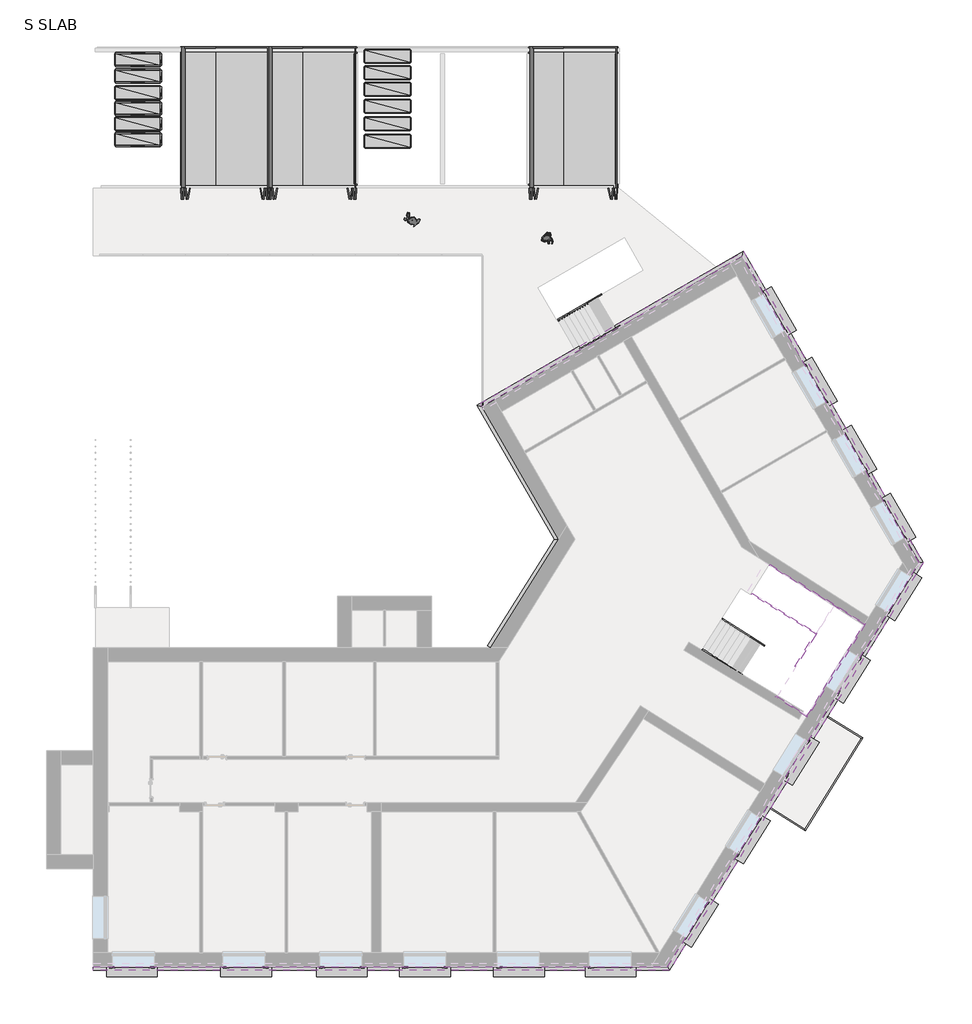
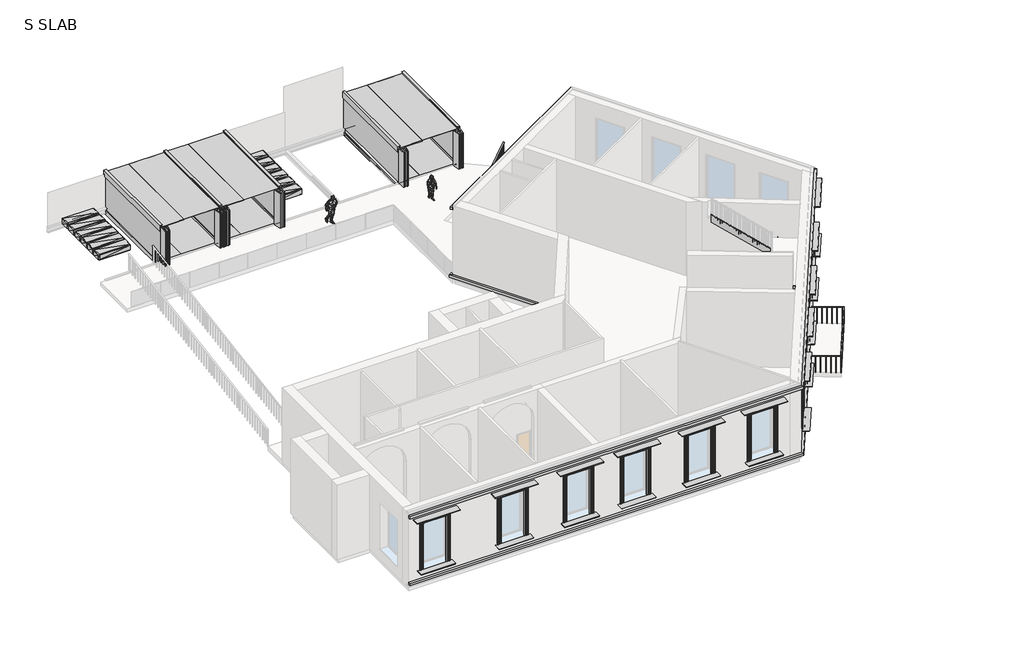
# One storey, part 4 of 4: 20 proxies, 14 geographic elements, 10 members, 2 railings.
"""IFC4 building model written with IfcOpenShell, lengths in millimetres."""

from ifc_helpers import new_model, si_unit, frame, origin, place, context, project, spatial, polyline, outline, extrude, faceted_brep, transform, mapped, element, save
from components import type_1_4bf1130a, metal_blocks12_metal_blocks12_015d9ee2, geographic_element_6e2c9092, geographic_element_3de9c337, geographic_element_529ebcd5

model = new_model("IFC4")

# Units and contexts
model_context = context("Model", 3, world=origin())
ifc_project = project(units=[si_unit("LENGTHUNIT", "METRE", prefix="MILLI")], contexts=[model_context])

# Site, building, storey
site = spatial("IfcSite", under=ifc_project)
building = spatial("IfcBuilding", under=site)
storey = spatial("IfcBuildingStorey", under=building, Name="S SLAB", Elevation=6300.0)

# Proxies
placement = place(None, origin())
element("IfcBuildingElementProxy", 1, Name="Cornice", ObjectType="Cornice", at=placement, inside=storey, context=model_context, shape_type="SweptSolid", body=[
    extrude(outline(polyline([(-13431.6874983, -4162.3711746), (-13431.6874983, -4009.9711746), (11034.8726536, -4009.9711746), (11119.4852108, -4162.3711746), (-13431.6874983, -4162.3711746)])), frame((0.0, 0.0, 6500.0), z_axis=(0.0, 0.0, 1.0), x_axis=(1.0, 0.0, 0.0)), (0.0, 0.0, 1.0), 152.4),
    extrude(outline(polyline([(21757.1517651, 13201.4322483), (21934.8489483, 13198.4516986), (11119.4852108, -4162.3711746), (11034.8726536, -4009.9711746), (21757.1517651, 13201.4322483)])), frame((0.0, 0.0, 6500.0), z_axis=(0.0, 0.0, 1.0), x_axis=(1.0, 0.0, 0.0)), (0.0, 0.0, 1.0), 152.4),
    extrude(outline(polyline([(14217.1617815, 26261.0779885), (14272.9440531, 26469.26026), (21934.8489483, 13198.4516986), (21757.1517651, 13201.4322483), (14217.1617815, 26261.0779885)])), frame((0.0, 0.0, 6500.0), z_axis=(0.0, 0.0, 1.0), x_axis=(1.0, 0.0, 0.0)), (0.0, 0.0, 1.0), 152.4),
    extrude(outline(polyline([(3132.0366131, 19861.0779885), (2923.8543416, 19916.86026), (14272.9440531, 26469.26026), (14217.1617815, 26261.0779885), (3132.0366131, 19861.0779885)])), frame((0.0, 0.0, 6500.0), z_axis=(0.0, 0.0, 1.0), x_axis=(1.0, 0.0, 0.0)), (0.0, 0.0, 1.0), 152.4),
    extrude(outline(polyline([(6391.9075202, 14214.8159512), (6214.1396695, 14217.9189006), (2923.8543416, 19916.86026), (3132.0366131, 19861.0779885), (6391.9075202, 14214.8159512)])), frame((0.0, 0.0, 6500.0), z_axis=(0.0, 0.0, 1.0), x_axis=(1.0, 0.0, 0.0)), (0.0, 0.0, 1.0), 152.4),
    extrude(outline(polyline([(3502.0197862, 9590.0288254), (3372.7772564, 9670.7885213), (6214.1396695, 14217.9189006), (6391.9075202, 14214.8159512), (3502.0197862, 9590.0288254)])), frame((0.0, 0.0, 6500.0), z_axis=(0.0, 0.0, 1.0), x_axis=(1.0, 0.0, 0.0)), (0.0, 0.0, 1.0), 152.4),
])
element("IfcBuildingElementProxy", 2, Name="Cornice", ObjectType="Cornice", at=placement, inside=storey, context=model_context, shape_type="SweptSolid", body=[
    extrude(outline(polyline([(-13431.6874983, -4162.3711746), (-13431.6874983, -4009.9711746), (11034.8726536, -4009.9711746), (11119.4852108, -4162.3711746), (-13431.6874983, -4162.3711746)])), frame((0.0, 0.0, 10900.0), z_axis=(0.0, 0.0, 1.0), x_axis=(1.0, 0.0, 0.0)), (0.0, 0.0, 1.0), 152.4),
    extrude(outline(polyline([(21757.1517651, 13201.4322483), (21934.8489483, 13198.4516986), (11119.4852108, -4162.3711746), (11034.8726536, -4009.9711746), (21757.1517651, 13201.4322483)])), frame((0.0, 0.0, 10900.0), z_axis=(0.0, 0.0, 1.0), x_axis=(1.0, 0.0, 0.0)), (0.0, 0.0, 1.0), 152.4),
    extrude(outline(polyline([(14217.1617815, 26261.0779885), (14272.9440531, 26469.26026), (21934.8489483, 13198.4516986), (21757.1517651, 13201.4322483), (14217.1617815, 26261.0779885)])), frame((0.0, 0.0, 10900.0), z_axis=(0.0, 0.0, 1.0), x_axis=(1.0, 0.0, 0.0)), (0.0, 0.0, 1.0), 152.4),
    extrude(outline(polyline([(3132.0366131, 19861.0779885), (3055.8366131, 19993.06026), (14272.9440531, 26469.26026), (14217.1617815, 26261.0779885), (3132.0366131, 19861.0779885)])), frame((0.0, 0.0, 10900.0), z_axis=(0.0, 0.0, 1.0), x_axis=(1.0, 0.0, 0.0)), (0.0, 0.0, 1.0), 152.4),
])
type_1_shape = type_1_4bf1130a(model_context)
element("IfcBuildingElementProxy", 3, Name="Family1.rfa122231 : Type 1", ObjectType="Family1.rfa122231 : Type 1", at=placement, inside=storey, context=model_context, shape_type="MappedRepresentation", body=[
    mapped(type_1_shape, transform((-11667.3092766, -3709.9711746, 6300.0), x_axis=(-1.0, 0.0, 0.0), y_axis=(0.0, -1.0, 0.0), z_axis=(0.0, 0.0, 1.0))),
])
element("IfcBuildingElementProxy", 4, Name="Family1.rfa122231 : Type 1", ObjectType="Family1.rfa122231 : Type 1", at=placement, inside=storey, context=model_context, shape_type="MappedRepresentation", body=[
    mapped(type_1_shape, transform((-6801.9484639, -3709.9711746, 6300.0), x_axis=(-1.0, 0.0, 0.0), y_axis=(0.0, -1.0, 0.0), z_axis=(0.0, 0.0, 1.0))),
])
element("IfcBuildingElementProxy", 5, Name="Family1.rfa122231 : Type 1", ObjectType="Family1.rfa122231 : Type 1", at=placement, inside=storey, context=model_context, shape_type="MappedRepresentation", body=[
    mapped(type_1_shape, transform((-2720.6984639, -3709.9711746, 6300.0), x_axis=(-1.0, 0.0, 0.0), y_axis=(0.0, -1.0, 0.0), z_axis=(0.0, 0.0, 1.0))),
])
element("IfcBuildingElementProxy", 6, Name="Family1.rfa122231 : Type 1", ObjectType="Family1.rfa122231 : Type 1", at=placement, inside=storey, context=model_context, shape_type="MappedRepresentation", body=[
    mapped(type_1_shape, transform((823.990647, -3709.9711746, 6300.0), x_axis=(-1.0, 0.0, 0.0), y_axis=(0.0, -1.0, 0.0), z_axis=(0.0, 0.0, 1.0))),
])
element("IfcBuildingElementProxy", 7, Name="Family1.rfa122231 : Type 1", ObjectType="Family1.rfa122231 : Type 1", at=placement, inside=storey, context=model_context, shape_type="MappedRepresentation", body=[
    mapped(type_1_shape, transform((4834.9297578, -3709.9711746, 6300.0), x_axis=(-1.0, 0.0, 0.0), y_axis=(0.0, -1.0, 0.0), z_axis=(0.0, 0.0, 1.0))),
])
element("IfcBuildingElementProxy", 8, Name="Family1.rfa122231 : Type 1", ObjectType="Family1.rfa122231 : Type 1", at=placement, inside=storey, context=model_context, shape_type="MappedRepresentation", body=[
    mapped(type_1_shape, transform((8744.9297578, -3709.9711746, 6300.0), x_axis=(-1.0, 0.0, 0.0), y_axis=(0.0, -1.0, 0.0), z_axis=(0.0, 0.0, 1.0))),
])
element("IfcBuildingElementProxy", 9, Name="Family1.rfa122231 : Type 1", ObjectType="Family1.rfa122231 : Type 1", at=placement, inside=storey, context=model_context, shape_type="MappedRepresentation", body=[
    mapped(type_1_shape, transform((12080.9568007, -1763.4344335, 6300.0), x_axis=(-0.5287625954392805, -0.8487697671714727, 0.0), y_axis=(0.8487697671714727, -0.5287625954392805, 0.0), z_axis=(0.0, 0.0, 1.0))),
])
element("IfcBuildingElementProxy", 10, Name="Family1.rfa122231 : Type 1", ObjectType="Family1.rfa122231 : Type 1", at=placement, inside=storey, context=model_context, shape_type="MappedRepresentation", body=[
    mapped(type_1_shape, transform((14290.8556765, 1783.8954467, 6300.0), x_axis=(-0.5287625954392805, -0.8487697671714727, 0.0), y_axis=(0.8487697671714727, -0.5287625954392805, 0.0), z_axis=(0.0, 0.0, 1.0))),
])
element("IfcBuildingElementProxy", 11, Name="Family1.rfa122231 : Type 1", ObjectType="Family1.rfa122231 : Type 1", at=placement, inside=storey, context=model_context, shape_type="MappedRepresentation", body=[
    mapped(type_1_shape, transform((20747.0469669, 12147.3743039, 6300.0), x_axis=(-0.5287625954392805, -0.8487697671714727, 0.0), y_axis=(0.8487697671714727, -0.5287625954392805, 0.0), z_axis=(0.0, 0.0, 1.0))),
])
element("IfcBuildingElementProxy", 12, Name="Family1.rfa122231 : Type 1", ObjectType="Family1.rfa122231 : Type 1", at=placement, inside=storey, context=model_context, shape_type="MappedRepresentation", body=[
    mapped(type_1_shape, transform((20386.1041604, 14976.1563593, 6300.0), x_axis=(0.49999999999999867, -0.8660254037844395, 0.0), y_axis=(0.8660254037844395, 0.49999999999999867, 0.0), z_axis=(0.0, 0.0, 1.0))),
])
element("IfcBuildingElementProxy", 13, Name="Family1.rfa122231 : Type 1", ObjectType="Family1.rfa122231 : Type 1", at=placement, inside=storey, context=model_context, shape_type="MappedRepresentation", body=[
    mapped(type_1_shape, transform((18712.3541604, 17875.1763985, 6300.0), x_axis=(0.49999999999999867, -0.8660254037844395, 0.0), y_axis=(0.8660254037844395, 0.49999999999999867, 0.0), z_axis=(0.0, 0.0, 1.0))),
])
element("IfcBuildingElementProxy", 14, Name="Family1.rfa122231 : Type 1", ObjectType="Family1.rfa122231 : Type 1", at=placement, inside=storey, context=model_context, shape_type="MappedRepresentation", body=[
    mapped(type_1_shape, transform((17038.6041604, 20774.1964376, 6300.0), x_axis=(0.49999999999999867, -0.8660254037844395, 0.0), y_axis=(0.8660254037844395, 0.49999999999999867, 0.0), z_axis=(0.0, 0.0, 1.0))),
])
element("IfcBuildingElementProxy", 15, Name="Family1.rfa122231 : Type 1", ObjectType="Family1.rfa122231 : Type 1", at=placement, inside=storey, context=model_context, shape_type="MappedRepresentation", body=[
    mapped(type_1_shape, transform((15301.4150495, 23783.09624, 6300.0), x_axis=(0.49999999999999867, -0.8660254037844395, 0.0), y_axis=(0.8660254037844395, 0.49999999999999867, 0.0), z_axis=(0.0, 0.0, 1.0))),
])
element("IfcBuildingElementProxy", 16, Name="Family1.rfa122231 : Type 1", ObjectType="Family1.rfa122231 : Type 1", at=placement, inside=storey, context=model_context, shape_type="MappedRepresentation", body=[
    mapped(type_1_shape, transform((18557.9698217, 8633.4674678, 6300.0), x_axis=(-0.5287625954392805, -0.8487697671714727, 0.0), y_axis=(0.8487697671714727, -0.5287625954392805, 0.0), z_axis=(0.0, 0.0, 1.0))),
])
element("IfcBuildingElementProxy", 17, Name="Family1.rfa122231 : Type 1", ObjectType="Family1.rfa122231 : Type 1", at=placement, inside=storey, context=model_context, shape_type="MappedRepresentation", body=[
    mapped(type_1_shape, transform((16376.3301548, 5131.4992723, 6300.0), x_axis=(-0.5287625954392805, -0.8487697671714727, 0.0), y_axis=(0.8487697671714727, -0.5287625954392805, 0.0), z_axis=(0.0, 0.0, 1.0))),
])
metal_blocks12_metal_blocks12_shape = metal_blocks12_metal_blocks12_015d9ee2(model_context)
element("IfcBuildingElementProxy", 18, Name="metal blocks12 : metal blocks12", ObjectType="metal blocks12 : metal blocks12", at=placement, inside=storey, context=model_context, shape_type="MappedRepresentation", body=[
    mapped(metal_blocks12_metal_blocks12_shape, transform((8873.2976061, 29190.0288254, 6000.0), x_axis=(0.0, 1.0, 0.0), y_axis=(-1.0, 0.0, 0.0), z_axis=(0.0, 0.0, 1.0))),
])
element("IfcBuildingElementProxy", 19, Name="metal blocks12 : metal blocks12", ObjectType="metal blocks12 : metal blocks12", at=placement, inside=storey, context=model_context, shape_type="MappedRepresentation", body=[
    mapped(metal_blocks12_metal_blocks12_shape, transform((-5969.7874983, 29190.0288254, 6000.0), x_axis=(0.0, 1.0, 0.0), y_axis=(-1.0, 0.0, 0.0), z_axis=(0.0, 0.0, 1.0))),
])
element("IfcBuildingElementProxy", 20, Name="metal blocks12 : metal blocks12", ObjectType="metal blocks12 : metal blocks12", at=placement, inside=storey, context=model_context, shape_type="MappedRepresentation", body=[
    mapped(metal_blocks12_metal_blocks12_shape, transform((-2252.8874983, 29190.0288254, 6000.0), x_axis=(0.0, 1.0, 0.0), y_axis=(-1.0, 0.0, 0.0), z_axis=(0.0, 0.0, 1.0))),
])

# Geographic elements
geographic_element_shape = geographic_element_6e2c9092(model_context)
element("IfcGeographicElement", 21, ObjectType="Enscape AssetDefinition - Hedge 006 English Laurel : Enscape AssetDefinition - Hedge 006 English Laurel", at=placement, inside=storey, context=model_context, shape_type="MappedRepresentation", body=[
    mapped(geographic_element_shape, transform((-896.5962965, 34782.5288254, 6300.0), x_axis=(1.0, 0.0, 0.0), y_axis=(0.0, 1.0, 0.0), z_axis=(0.0, 0.0, 1.0))),
])
element("IfcGeographicElement", 22, ObjectType="Enscape AssetDefinition - Hedge 006 English Laurel : Enscape AssetDefinition - Hedge 006 English Laurel", at=placement, inside=storey, context=model_context, shape_type="MappedRepresentation", body=[
    mapped(geographic_element_shape, transform((-896.5962965, 33382.5288254, 6300.0), x_axis=(1.0, 0.0, 0.0), y_axis=(0.0, 1.0, 0.0), z_axis=(0.0, 0.0, 1.0))),
])
element("IfcGeographicElement", 23, ObjectType="Enscape AssetDefinition - Hedge 006 English Laurel : Enscape AssetDefinition - Hedge 006 English Laurel", at=placement, inside=storey, context=model_context, shape_type="MappedRepresentation", body=[
    mapped(geographic_element_shape, transform((-896.5962965, 34082.5288254, 6300.0), x_axis=(1.0, 0.0, 0.0), y_axis=(0.0, 1.0, 0.0), z_axis=(0.0, 0.0, 1.0))),
])
element("IfcGeographicElement", 24, ObjectType="Enscape AssetDefinition - Hedge 006 English Laurel : Enscape AssetDefinition - Hedge 006 English Laurel", at=placement, inside=storey, context=model_context, shape_type="MappedRepresentation", body=[
    mapped(geographic_element_shape, transform((-11529.1066547, 34644.4288254, 6300.0), x_axis=(1.0, 0.0, 0.0), y_axis=(0.0, 1.0, 0.0), z_axis=(0.0, 0.0, 1.0))),
])
element("IfcGeographicElement", 25, ObjectType="Enscape AssetDefinition - Hedge 006 English Laurel : Enscape AssetDefinition - Hedge 006 English Laurel", at=placement, inside=storey, context=model_context, shape_type="MappedRepresentation", body=[
    mapped(geographic_element_shape, transform((-11529.1066547, 33944.4288254, 6300.0), x_axis=(1.0, 0.0, 0.0), y_axis=(0.0, 1.0, 0.0), z_axis=(0.0, 0.0, 1.0))),
])
element("IfcGeographicElement", 26, ObjectType="Enscape AssetDefinition - Hedge 006 English Laurel : Enscape AssetDefinition - Hedge 006 English Laurel", at=placement, inside=storey, context=model_context, shape_type="MappedRepresentation", body=[
    mapped(geographic_element_shape, transform((-11529.1066547, 33232.7662785, 6300.0), x_axis=(1.0, 0.0, 0.0), y_axis=(0.0, 1.0, 0.0), z_axis=(0.0, 0.0, 1.0))),
])
element("IfcGeographicElement", 27, ObjectType="Enscape AssetDefinition - Hedge 006 English Laurel : Enscape AssetDefinition - Hedge 006 English Laurel", at=placement, inside=storey, context=model_context, shape_type="MappedRepresentation", body=[
    mapped(geographic_element_shape, transform((-896.5962965, 32658.2186162, 6300.0), x_axis=(1.0, 0.0, 0.0), y_axis=(0.0, 1.0, 0.0), z_axis=(0.0, 0.0, 1.0))),
])
element("IfcGeographicElement", 28, ObjectType="Enscape AssetDefinition - Hedge 006 English Laurel : Enscape AssetDefinition - Hedge 006 English Laurel", at=placement, inside=storey, context=model_context, shape_type="MappedRepresentation", body=[
    mapped(geographic_element_shape, transform((-896.5962965, 31907.7013423, 6300.0), x_axis=(1.0, 0.0, 0.0), y_axis=(0.0, 1.0, 0.0), z_axis=(0.0, 0.0, 1.0))),
])
element("IfcGeographicElement", 29, ObjectType="Enscape AssetDefinition - Hedge 006 English Laurel : Enscape AssetDefinition - Hedge 006 English Laurel", at=placement, inside=storey, context=model_context, shape_type="MappedRepresentation", body=[
    mapped(geographic_element_shape, transform((-896.5962965, 31158.2186162, 6300.0), x_axis=(1.0, 0.0, 0.0), y_axis=(0.0, 1.0, 0.0), z_axis=(0.0, 0.0, 1.0))),
])
element("IfcGeographicElement", 30, ObjectType="Enscape AssetDefinition - Hedge 006 English Laurel : Enscape AssetDefinition - Hedge 006 English Laurel", at=placement, inside=storey, context=model_context, shape_type="MappedRepresentation", body=[
    mapped(geographic_element_shape, transform((-11529.1066547, 32559.5463184, 6300.0), x_axis=(1.0, 0.0, 0.0), y_axis=(0.0, 1.0, 0.0), z_axis=(0.0, 0.0, 1.0))),
])
element("IfcGeographicElement", 31, ObjectType="Enscape AssetDefinition - Hedge 006 English Laurel : Enscape AssetDefinition - Hedge 006 English Laurel", at=placement, inside=storey, context=model_context, shape_type="MappedRepresentation", body=[
    mapped(geographic_element_shape, transform((-11529.1066547, 31903.8132605, 6300.0), x_axis=(1.0, 0.0, 0.0), y_axis=(0.0, 1.0, 0.0), z_axis=(0.0, 0.0, 1.0))),
])
element("IfcGeographicElement", 32, ObjectType="Enscape AssetDefinition - Hedge 006 English Laurel : Enscape AssetDefinition - Hedge 006 English Laurel", at=placement, inside=storey, context=model_context, shape_type="MappedRepresentation", body=[
    mapped(geographic_element_shape, transform((-11529.1066547, 31236.315238, 6300.0), x_axis=(1.0, 0.0, 0.0), y_axis=(0.0, 1.0, 0.0), z_axis=(0.0, 0.0, 1.0))),
])
geographic_element_2_shape = geographic_element_3de9c337(model_context)
element("IfcGeographicElement", 33, ObjectType="Enscape AssetDefinition - Alex 004 Walking : Enscape AssetDefinition - Alex 004 Walking", at=placement, inside=storey, context=model_context, shape_type="MappedRepresentation", body=[
    mapped(geographic_element_2_shape, transform((132.0366131, 27817.2304112, 6300.0), x_axis=(1.0, 0.0, 0.0), y_axis=(0.0, 1.0, 0.0), z_axis=(0.0, 0.0, 1.0))),
])
geographic_element_3_shape = geographic_element_529ebcd5(model_context)
element("IfcGeographicElement", 34, ObjectType="Enscape AssetDefinition - Adrian 001 Walking : Enscape AssetDefinition - Adrian 001 Walking", at=placement, inside=storey, context=model_context, shape_type="MappedRepresentation", body=[
    mapped(geographic_element_3_shape, transform((5893.3125017, 26997.5806339, 6300.0), x_axis=(1.0, 0.0, 0.0), y_axis=(0.0, 1.0, 0.0), z_axis=(0.0, 0.0, 1.0))),
])

# Members
element("IfcMember", 35, ObjectType="Stringer-50mm_Width", at=placement, inside=storey, context=model_context, shape_type="Brep", body=[
    faceted_brep([(13346.5646364, 10803.8971538, 6300.0), (13373.4989751, 10846.0224598, 6300.0), (13685.0798609, 10646.8019454, 6300.0), (13658.1455222, 10604.6766395, 6300.0), (13346.5646364, 10803.8971538, 6533.5551302), (13373.4989751, 10846.0224598, 6533.5551302), (16471.9737716, 8805.5537259, 9022.6156419), (16498.4137221, 8847.9951368, 9022.2219135), (16498.4137221, 8847.9951368, 8540.5252935), (16471.9737716, 8805.5537259, 8540.9190219)], [[[0, 1, 2, 3]], [[4, 5, 1, 0]], [[5, 4, 6, 7]], [[1, 5, 7, 8, 2]], [[4, 0, 3, 9, 6]], [[2, 8, 9, 3]], [[6, 9, 8, 7]]]),
])
element("IfcMember", 36, ObjectType="Stringer-50mm_Width", at=placement, inside=storey, context=model_context, shape_type="SweptSolid", body=[
    extrude(outline(polyline([(268.3870968, -400.0), (138.2570923, -206.0562433), (445.3601472, 0.0), (4620.5774421, 0.0), (4742.3368277, -400.0), (268.3870968, -400.0)])), frame((12511.6001367, 9498.0126704, 6051.8585102), z_axis=(0.538686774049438, 0.8425061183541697, 0.0), x_axis=(0.6996155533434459, -0.4473245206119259, 0.5571703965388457)), (0.0, 0.0, 1.0), 50.0),
])
element("IfcMember", 37, ObjectType="Stringer-50mm_Width", at=placement, inside=storey, context=model_context, shape_type="SweptSolid", body=[
    extrude(outline(polyline([(-268.3870967, -399.9999999), (0.0, 0.0), (3913.7850375, 0.0), (3645.3979407, -400.0), (-268.3870967, -399.9999999)])), frame((17369.2614067, 10151.3195256, 9217.4260979), z_axis=(0.5287625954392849, 0.8487697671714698, 0.0), x_axis=(-0.7048168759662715, 0.4390835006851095, 0.5571703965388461)), (0.0, 0.0, 1.0), 50.0),
])
element("IfcMember", 38, ObjectType="Stringer-50mm_Width", at=placement, inside=storey, context=model_context, shape_type="SweptSolid", body=[
    extrude(outline(polyline([(-464.7758546, -400.0), (-343.016469, 0.0), (3913.7850375, 0.0), (3645.3979407, -400.0), (-464.7758546, -400.0)])), frame((18134.7668953, 11380.1090068, 9217.4260979), z_axis=(0.5287625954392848, 0.8487697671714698, 0.0), x_axis=(-0.7048168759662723, 0.43908350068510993, 0.5571703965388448)), (0.0, 0.0, 1.0), 50.0),
])
element("IfcMember", 39, ObjectType="Stringer-50mm_Width", at=placement, inside=storey, context=model_context, shape_type="SweptSolid", body=[
    extrude(outline(polyline([(17326.8229183, 10177.7576554), (17369.2614067, 10151.3195256), (16514.1019785, 8778.6175323), (16471.9737716, 8805.5537259), (17326.8229183, 10177.7576554)])), frame((0.0, 0.0, 8626.3074759), z_axis=(0.0, 0.0, 1.0), x_axis=(1.0, 0.0, 0.0)), (0.0, 0.0, 1.0), 400.0),
])
element("IfcMember", 40, ObjectType="Stringer-50mm_Width", at=placement, inside=storey, context=model_context, shape_type="Brep", body=[
    faceted_brep([(15668.579292, 7538.8305577, 9026.3074759), (15641.6449533, 7496.7052518, 9026.3074759), (17000.4379288, 6627.911793, 9026.3074759), (16984.7496723, 6697.2893975, 9026.3074759), (15771.1623193, 7473.240387, 8626.3074759), (16984.7496723, 6697.2893975, 8626.3074759), (15744.2279806, 7431.1150811, 8626.3074759), (17000.4379288, 6627.911793, 8626.3074759)], [[[0, 1, 2, 3]], [[4, 0, 3, 5]], [[6, 4, 5, 7]], [[1, 6, 7, 2]], [[1, 0, 4, 6]], [[2, 7, 5, 3]]]),
])
element("IfcMember", 41, ObjectType="Stringer-50mm_Width", at=placement, inside=storey, context=model_context, shape_type="SweptSolid", body=[
    extrude(outline(polyline([(17000.4379288, 6627.911793), (16984.7496723, 6697.2893975), (19407.9215461, 10586.9651137), (19476.7981642, 10602.9654723), (17000.4379288, 6627.911793)])), frame((0.0, 0.0, 8626.3074759), z_axis=(0.0, 0.0, 1.0), x_axis=(1.0, 0.0, 0.0)), (0.0, 0.0, 1.0), 400.0),
])
element("IfcMember", 42, ObjectType="Stringer-50mm_Width", at=placement, inside=storey, context=model_context, shape_type="Brep", body=[
    faceted_brep([(19407.9215461, 10586.9651137, 9026.3074759), (19476.7981642, 10602.9654723, 9026.3074759), (18402.9688212, 11271.9346232, 9026.3074759), (18376.5306914, 11229.4961348, 9026.3074759), (19407.9215461, 10586.9651137, 8626.3074759), (18273.1850061, 11293.8779436, 8626.3074759), (19476.7981642, 10602.9654723, 8626.3074759), (18299.6231358, 11336.3164319, 8626.3074759)], [[[0, 1, 2, 3]], [[4, 0, 3, 5]], [[6, 4, 5, 7]], [[1, 6, 7, 2]], [[1, 0, 4, 6]], [[2, 7, 5, 3]]]),
])
element("IfcMember", 43, ObjectType="Stringer-50mm_Width", at=placement, inside=storey, context=model_context, shape_type="SweptSolid", body=[
    extrude(outline(polyline([(266.6666666, -399.9999999), (137.3888461, -206.0832691), (446.5137498, 0.0), (4206.4764881, 1e-07), (4473.1431547, -400.0), (266.6666666, -399.9999999)])), frame((6367.9386668, 23532.6716454, 6052.3187354), z_axis=(-0.49999999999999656, 0.8660254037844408, 0.0), x_axis=(0.7205766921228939, 0.416025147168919, 0.5547001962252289)), (0.0, 0.0, 1.0), 50.0),
])
element("IfcMember", 44, ObjectType="Stringer-50mm_Width", at=placement, inside=storey, context=model_context, shape_type="SweptSolid", body=[
    extrude(outline(polyline([(266.6666666, -399.9999999), (137.3888461, -206.0832691), (446.5137497, 0.0), (4206.4764881, 1e-07), (4473.1431547, -400.0), (266.6666666, -399.9999999)])), frame((7142.9386668, 22190.3322696, 6052.3187354), z_axis=(-0.49999999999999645, 0.8660254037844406, 0.0), x_axis=(0.720576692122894, 0.41602514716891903, 0.5547001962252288)), (0.0, 0.0, 1.0), 50.0),
])

# Railings
element("IfcRailing", 45, ObjectType="1100mm", at=placement, inside=storey, context=model_context, shape_type="SolidModel", body=[
    faceted_brep([(17870.4201362, 6674.2301929, 7400.0), (17870.4201362, 6674.2301929, 7350.0), (17843.9820064, 6631.7917046, 7350.0), (17843.9820064, 6631.7917046, 7400.0), (19360.5372599, 5745.9240393, 7400.0), (19360.5372599, 5745.9240393, 7350.0), (19291.7481927, 5729.8691387, 7350.0), (19291.7481927, 5729.8691387, 7400.0), (16909.9742455, 1794.1192281, 7400.0), (16909.9742455, 1794.1192281, 7350.0), (16893.8316815, 1862.9626565, 7350.0), (16893.8316815, 1862.9626565, 7400.0), (15409.971481, 2724.2894849, 7400.0), (15436.3219132, 2766.7824811, 7400.0), (15436.3219132, 2766.7824811, 7350.0), (15409.971481, 2724.2894849, 7350.0)], [[[0, 1, 2, 3]], [[1, 0, 4, 5]], [[2, 1, 5, 6]], [[3, 2, 6, 7]], [[0, 3, 7, 4]], [[5, 4, 8, 9]], [[6, 5, 9, 10]], [[7, 6, 10, 11]], [[4, 7, 11, 8]], [[12, 13, 14, 15]], [[9, 8, 12, 15]], [[10, 9, 15, 14]], [[11, 10, 14, 13]], [[8, 11, 13, 12]]]),
    extrude(outline(polyline([(15516.8449473, 2702.140846), (15503.6697312, 2680.894348), (15482.4232331, 2694.0695641), (15495.5984492, 2715.3160621), (15516.8449473, 2702.140846)])), frame((0.0, 0.0, 6300.0), z_axis=(0.0, 0.0, 1.0), x_axis=(1.0, 0.0, 0.0)), (0.0, 0.0, 1.0), 1050.0),
    extrude(outline(polyline([(15750.5564262, 2557.2134689), (15737.3812101, 2535.9669708), (15716.134712, 2549.1421869), (15729.3099281, 2570.388685), (15750.5564262, 2557.2134689)])), frame((0.0, 0.0, 6300.0), z_axis=(0.0, 0.0, 1.0), x_axis=(1.0, 0.0, 0.0)), (0.0, 0.0, 1.0), 1050.0),
    extrude(outline(polyline([(15984.2679051, 2412.2860918), (15971.092689, 2391.0395937), (15949.8461909, 2404.2148098), (15963.021407, 2425.4613079), (15984.2679051, 2412.2860918)])), frame((0.0, 0.0, 6300.0), z_axis=(0.0, 0.0, 1.0), x_axis=(1.0, 0.0, 0.0)), (0.0, 0.0, 1.0), 1050.0),
    extrude(outline(polyline([(16217.979384, 2267.3587147), (16204.8041679, 2246.1122166), (16183.5576698, 2259.2874327), (16196.7328859, 2280.5339308), (16217.979384, 2267.3587147)])), frame((0.0, 0.0, 6300.0), z_axis=(0.0, 0.0, 1.0), x_axis=(1.0, 0.0, 0.0)), (0.0, 0.0, 1.0), 1050.0),
    extrude(outline(polyline([(16451.6908628, 2122.4313375), (16438.5156467, 2101.1848395), (16417.2691487, 2114.3600556), (16430.4443648, 2135.6065536), (16451.6908628, 2122.4313375)])), frame((0.0, 0.0, 6300.0), z_axis=(0.0, 0.0, 1.0), x_axis=(1.0, 0.0, 0.0)), (0.0, 0.0, 1.0), 1050.0),
    extrude(outline(polyline([(16685.4023417, 1977.5039604), (16672.2271256, 1956.2574623), (16650.9806275, 1969.4326784), (16664.1558436, 1990.6791765), (16685.4023417, 1977.5039604)])), frame((0.0, 0.0, 6300.0), z_axis=(0.0, 0.0, 1.0), x_axis=(1.0, 0.0, 0.0)), (0.0, 0.0, 1.0), 1050.0),
    extrude(outline(polyline([(17003.2690513, 2015.723784), (17024.5155494, 2002.5485679), (17011.3403333, 1981.3020699), (16990.0938352, 1994.477286), (17003.2690513, 2015.723784)])), frame((0.0, 0.0, 6300.0), z_axis=(0.0, 0.0, 1.0), x_axis=(1.0, 0.0, 0.0)), (0.0, 0.0, 1.0), 1050.0),
    extrude(outline(polyline([(17148.1964285, 2249.4352629), (17169.4429265, 2236.2600468), (17156.2677104, 2215.0135487), (17135.0212124, 2228.1887648), (17148.1964285, 2249.4352629)])), frame((0.0, 0.0, 6300.0), z_axis=(0.0, 0.0, 1.0), x_axis=(1.0, 0.0, 0.0)), (0.0, 0.0, 1.0), 1050.0),
    extrude(outline(polyline([(17293.1238056, 2483.1467418), (17314.3703037, 2469.9715257), (17301.1950876, 2448.7250276), (17279.9485895, 2461.9002437), (17293.1238056, 2483.1467418)])), frame((0.0, 0.0, 6300.0), z_axis=(0.0, 0.0, 1.0), x_axis=(1.0, 0.0, 0.0)), (0.0, 0.0, 1.0), 1050.0),
    extrude(outline(polyline([(17438.0511827, 2716.8582207), (17459.2976808, 2703.6830046), (17446.1224647, 2682.4365065), (17424.8759666, 2695.6117226), (17438.0511827, 2716.8582207)])), frame((0.0, 0.0, 6300.0), z_axis=(0.0, 0.0, 1.0), x_axis=(1.0, 0.0, 0.0)), (0.0, 0.0, 1.0), 1050.0),
    extrude(outline(polyline([(17582.9785598, 2950.5696996), (17604.2250579, 2937.3944835), (17591.0498418, 2916.1479854), (17569.8033437, 2929.3232015), (17582.9785598, 2950.5696996)])), frame((0.0, 0.0, 6300.0), z_axis=(0.0, 0.0, 1.0), x_axis=(1.0, 0.0, 0.0)), (0.0, 0.0, 1.0), 1050.0),
    extrude(outline(polyline([(17727.9059369, 3184.2811784), (17749.152435, 3171.1059623), (17735.9772189, 3149.8594643), (17714.7307208, 3163.0346804), (17727.9059369, 3184.2811784)])), frame((0.0, 0.0, 6300.0), z_axis=(0.0, 0.0, 1.0), x_axis=(1.0, 0.0, 0.0)), (0.0, 0.0, 1.0), 1050.0),
    extrude(outline(polyline([(17872.8333141, 3417.9926573), (17894.0798121, 3404.8174412), (17880.904596, 3383.5709431), (17859.658098, 3396.7461592), (17872.8333141, 3417.9926573)])), frame((0.0, 0.0, 6300.0), z_axis=(0.0, 0.0, 1.0), x_axis=(1.0, 0.0, 0.0)), (0.0, 0.0, 1.0), 1050.0),
    extrude(outline(polyline([(18017.7606912, 3651.7041362), (18039.0071893, 3638.5289201), (18025.8319732, 3617.282422), (18004.5854751, 3630.4576381), (18017.7606912, 3651.7041362)])), frame((0.0, 0.0, 6300.0), z_axis=(0.0, 0.0, 1.0), x_axis=(1.0, 0.0, 0.0)), (0.0, 0.0, 1.0), 1050.0),
    extrude(outline(polyline([(18162.6880683, 3885.4156151), (18183.9345664, 3872.240399), (18170.7593503, 3850.9939009), (18149.5128522, 3864.169117), (18162.6880683, 3885.4156151)])), frame((0.0, 0.0, 6300.0), z_axis=(0.0, 0.0, 1.0), x_axis=(1.0, 0.0, 0.0)), (0.0, 0.0, 1.0), 1050.0),
    extrude(outline(polyline([(18307.6154454, 4119.127094), (18328.8619435, 4105.9518779), (18315.6867274, 4084.7053798), (18294.4402293, 4097.8805959), (18307.6154454, 4119.127094)])), frame((0.0, 0.0, 6300.0), z_axis=(0.0, 0.0, 1.0), x_axis=(1.0, 0.0, 0.0)), (0.0, 0.0, 1.0), 1050.0),
    extrude(outline(polyline([(18452.5428226, 4352.8385728), (18473.7893206, 4339.6633567), (18460.6141045, 4318.4168587), (18439.3676065, 4331.5920748), (18452.5428226, 4352.8385728)])), frame((0.0, 0.0, 6300.0), z_axis=(0.0, 0.0, 1.0), x_axis=(1.0, 0.0, 0.0)), (0.0, 0.0, 1.0), 1050.0),
    extrude(outline(polyline([(18597.4701997, 4586.5500517), (18618.7166978, 4573.3748356), (18605.5414817, 4552.1283375), (18584.2949836, 4565.3035536), (18597.4701997, 4586.5500517)])), frame((0.0, 0.0, 6300.0), z_axis=(0.0, 0.0, 1.0), x_axis=(1.0, 0.0, 0.0)), (0.0, 0.0, 1.0), 1050.0),
    extrude(outline(polyline([(18742.3975768, 4820.2615306), (18763.6440749, 4807.0863145), (18750.4688588, 4785.8398164), (18729.2223607, 4799.0150325), (18742.3975768, 4820.2615306)])), frame((0.0, 0.0, 6300.0), z_axis=(0.0, 0.0, 1.0), x_axis=(1.0, 0.0, 0.0)), (0.0, 0.0, 1.0), 1050.0),
    extrude(outline(polyline([(18887.3249539, 5053.9730095), (18908.571452, 5040.7977934), (18895.3962359, 5019.5512953), (18874.1497378, 5032.7265114), (18887.3249539, 5053.9730095)])), frame((0.0, 0.0, 6300.0), z_axis=(0.0, 0.0, 1.0), x_axis=(1.0, 0.0, 0.0)), (0.0, 0.0, 1.0), 1050.0),
    extrude(outline(polyline([(19032.2523311, 5287.6844884), (19053.4988291, 5274.5092723), (19040.323613, 5253.2627742), (19019.077115, 5266.4379903), (19032.2523311, 5287.6844884)])), frame((0.0, 0.0, 6300.0), z_axis=(0.0, 0.0, 1.0), x_axis=(1.0, 0.0, 0.0)), (0.0, 0.0, 1.0), 1050.0),
    extrude(outline(polyline([(19177.1797082, 5521.3959672), (19198.4262063, 5508.2207511), (19185.2509902, 5486.9742531), (19164.0044921, 5500.1494692), (19177.1797082, 5521.3959672)])), frame((0.0, 0.0, 6300.0), z_axis=(0.0, 0.0, 1.0), x_axis=(1.0, 0.0, 0.0)), (0.0, 0.0, 1.0), 1050.0),
    extrude(outline(polyline([(19240.4520326, 5776.5525766), (19253.6710975, 5797.7718208), (19274.8903417, 5784.5527559), (19261.6712768, 5763.3335117), (19240.4520326, 5776.5525766)])), frame((0.0, 0.0, 6300.0), z_axis=(0.0, 0.0, 1.0), x_axis=(1.0, 0.0, 0.0)), (0.0, 0.0, 1.0), 1050.0),
    extrude(outline(polyline([(19007.0403466, 5921.9622904), (19020.2594115, 5943.1815346), (19041.4786557, 5929.9624697), (19028.2595908, 5908.7432255), (19007.0403466, 5921.9622904)])), frame((0.0, 0.0, 6300.0), z_axis=(0.0, 0.0, 1.0), x_axis=(1.0, 0.0, 0.0)), (0.0, 0.0, 1.0), 1050.0),
    extrude(outline(polyline([(18773.6286607, 6067.3720041), (18786.8477255, 6088.5912483), (18808.0669697, 6075.3721834), (18794.8479048, 6054.1529392), (18773.6286607, 6067.3720041)])), frame((0.0, 0.0, 6300.0), z_axis=(0.0, 0.0, 1.0), x_axis=(1.0, 0.0, 0.0)), (0.0, 0.0, 1.0), 1050.0),
    extrude(outline(polyline([(18540.2169747, 6212.7817179), (18553.4360396, 6234.000962), (18574.6552838, 6220.7818972), (18561.4362189, 6199.562653), (18540.2169747, 6212.7817179)])), frame((0.0, 0.0, 6300.0), z_axis=(0.0, 0.0, 1.0), x_axis=(1.0, 0.0, 0.0)), (0.0, 0.0, 1.0), 1050.0),
    extrude(outline(polyline([(18306.8052887, 6358.1914316), (18320.0243536, 6379.4106758), (18341.2435978, 6366.1916109), (18328.0245329, 6344.9723667), (18306.8052887, 6358.1914316)])), frame((0.0, 0.0, 6300.0), z_axis=(0.0, 0.0, 1.0), x_axis=(1.0, 0.0, 0.0)), (0.0, 0.0, 1.0), 1050.0),
    extrude(outline(polyline([(18073.3936027, 6503.6011454), (18086.6126676, 6524.8203895), (18107.8319118, 6511.6013247), (18094.6128469, 6490.3820805), (18073.3936027, 6503.6011454)])), frame((0.0, 0.0, 6300.0), z_axis=(0.0, 0.0, 1.0), x_axis=(1.0, 0.0, 0.0)), (0.0, 0.0, 1.0), 1050.0),
    extrude(outline(polyline([(16897.8673225, 1845.7517994), (16919.1138206, 1832.5765833), (16905.9386045, 1811.3300852), (16884.6921064, 1824.5053013), (16897.8673225, 1845.7517994)])), frame((0.0, 0.0, 6300.0), z_axis=(0.0, 0.0, 1.0), x_axis=(1.0, 0.0, 0.0)), (0.0, 0.0, 1.0), 1050.0),
    extrude(outline(polyline([(19308.9235718, 5733.8964994), (19322.1426366, 5755.1157436), (19343.3618808, 5741.8966787), (19330.1428159, 5720.6774345), (19308.9235718, 5733.8964994)])), frame((0.0, 0.0, 6300.0), z_axis=(0.0, 0.0, 1.0), x_axis=(1.0, 0.0, 0.0)), (0.0, 0.0, 1.0), 1050.0),
    extrude(outline(polyline([(15450.9808033, 2742.984016), (15437.8055872, 2721.7375179), (15416.5590891, 2734.912734), (15429.7343052, 2756.1592321), (15450.9808033, 2742.984016)])), frame((0.0, 0.0, 6300.0), z_axis=(0.0, 0.0, 1.0), x_axis=(1.0, 0.0, 0.0)), (0.0, 0.0, 1.0), 1050.0),
    extrude(outline(polyline([(17850.5915389, 6642.4013267), (17863.8106037, 6663.6205708), (17885.0298479, 6650.401506), (17871.810783, 6629.1822618), (17850.5915389, 6642.4013267)])), frame((0.0, 0.0, 6300.0), z_axis=(0.0, 0.0, 1.0), x_axis=(1.0, 0.0, 0.0)), (0.0, 0.0, 1.0), 1050.0),
])
element("IfcRailing", 46, ObjectType="1100mm", at=placement, inside=storey, context=model_context, shape_type="SweptSolid", body=[
    extrude(outline(polyline([(33.3333334, -50.0), (0.0, 0.0), (4206.4764881, 1e-07), (4239.8098214, -50.0), (33.3333334, -50.0)])), frame((6393.1386668, 23489.0239651, 7506.5741454), z_axis=(-0.4999999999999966, 0.8660254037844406, 0.0), x_axis=(0.7205766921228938, 0.4160251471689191, 0.5547001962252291)), (0.0, 0.0, 1.0), 50.0),
    extrude(outline(polyline([(1264.9074788, 25.0), (1264.9074788, 0.0), (91.6666667, 0.0), (108.3333334, 25.0), (1264.9074788, 25.0)])), frame((9374.6763099, 25224.8492826, 9898.2408121), z_axis=(-0.4999999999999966, 0.8660254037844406, 0.0), x_axis=(0.0, 0.0, -1.0)), (0.0, 0.0, 1.0), 25.0),
    extrude(outline(polyline([(1181.5741454, 25.0), (1181.5741454, 0.0), (91.6666666, 0.0), (108.3333333, 25.0), (1181.5741454, 25.0)])), frame((9266.4231344, 25162.3492826, 9814.9074787), z_axis=(-0.4999999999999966, 0.8660254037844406, 0.0), x_axis=(0.0, 0.0, -1.0)), (0.0, 0.0, 1.0), 25.0),
    extrude(outline(polyline([(1264.9074787, 25.0), (1264.9074787, 0.0), (91.6666667, 0.0), (108.3333333, 25.0), (1264.9074787, 25.0)])), frame((9158.1699589, 25099.8492826, 9731.5741454), z_axis=(-0.4999999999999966, 0.8660254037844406, 0.0), x_axis=(0.0, 0.0, -1.0)), (0.0, 0.0, 1.0), 25.0),
    extrude(outline(polyline([(1181.5741454, 25.0), (1181.5741454, 0.0), (91.6666667, 0.0), (108.3333334, 25.0), (1181.5741454, 25.0)])), frame((9049.9167835, 25037.3492826, 9648.2408121), z_axis=(-0.4999999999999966, 0.8660254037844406, 0.0), x_axis=(0.0, 0.0, -1.0)), (0.0, 0.0, 1.0), 25.0),
    extrude(outline(polyline([(1264.9074787, 25.0), (1264.9074787, 0.0), (91.6666666, 0.0), (108.3333333, 25.0), (1264.9074787, 25.0)])), frame((8941.663608, 24974.8492826, 9564.9074787), z_axis=(-0.4999999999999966, 0.8660254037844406, 0.0), x_axis=(0.0, 0.0, -1.0)), (0.0, 0.0, 1.0), 25.0),
    extrude(outline(polyline([(1181.5741454, 25.0), (1181.5741454, 0.0), (91.6666667, 0.0), (108.3333333, 25.0), (1181.5741454, 25.0)])), frame((8833.4104325, 24912.3492826, 9481.5741454), z_axis=(-0.4999999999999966, 0.8660254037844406, 0.0), x_axis=(0.0, 0.0, -1.0)), (0.0, 0.0, 1.0), 25.0),
    extrude(outline(polyline([(1264.9074788, 25.0), (1264.9074788, 0.0), (91.6666667, 0.0), (108.3333334, 25.0), (1264.9074788, 25.0)])), frame((8725.157257, 24849.8492826, 9398.2408121), z_axis=(-0.4999999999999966, 0.8660254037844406, 0.0), x_axis=(0.0, 0.0, -1.0)), (0.0, 0.0, 1.0), 25.0),
    extrude(outline(polyline([(1181.5741454, 25.0), (1181.5741454, 0.0), (91.6666666, 0.0), (108.3333333, 25.0), (1181.5741454, 25.0)])), frame((8616.9040816, 24787.3492826, 9314.9074787), z_axis=(-0.4999999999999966, 0.8660254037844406, 0.0), x_axis=(0.0, 0.0, -1.0)), (0.0, 0.0, 1.0), 25.0),
    extrude(outline(polyline([(1264.9074787, 25.0), (1264.9074787, 0.0), (91.6666667, 0.0), (108.3333333, 25.0), (1264.9074787, 25.0)])), frame((8508.6509061, 24724.8492826, 9231.5741454), z_axis=(-0.4999999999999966, 0.8660254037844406, 0.0), x_axis=(0.0, 0.0, -1.0)), (0.0, 0.0, 1.0), 25.0),
    extrude(outline(polyline([(1181.5741454, 25.0), (1181.5741454, 0.0), (91.6666667, 0.0), (108.3333334, 25.0), (1181.5741454, 25.0)])), frame((8400.3977306, 24662.3492826, 9148.2408121), z_axis=(-0.4999999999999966, 0.8660254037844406, 0.0), x_axis=(0.0, 0.0, -1.0)), (0.0, 0.0, 1.0), 25.0),
    extrude(outline(polyline([(1264.9074787, 24.9999999), (1264.9074787, 0.0), (91.6666666, 0.0), (108.3333333, 24.9999999), (1264.9074787, 24.9999999)])), frame((8292.1445551, 24599.8492826, 9064.9074787), z_axis=(-0.4999999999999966, 0.8660254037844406, 0.0), x_axis=(0.0, 0.0, -1.0)), (0.0, 0.0, 1.0), 25.0),
    extrude(outline(polyline([(1181.5741454, 25.0), (1181.5741454, 0.0), (91.6666667, 0.0), (108.3333333, 25.0), (1181.5741454, 25.0)])), frame((8183.8913797, 24537.3492826, 8981.5741454), z_axis=(-0.4999999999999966, 0.8660254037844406, 0.0), x_axis=(0.0, 0.0, -1.0)), (0.0, 0.0, 1.0), 25.0),
    extrude(outline(polyline([(1264.9074788, 25.0), (1264.9074788, 0.0), (91.6666667, 0.0), (108.3333334, 25.0), (1264.9074788, 25.0)])), frame((8075.6382042, 24474.8492826, 8898.2408121), z_axis=(-0.4999999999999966, 0.8660254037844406, 0.0), x_axis=(0.0, 0.0, -1.0)), (0.0, 0.0, 1.0), 25.0),
    extrude(outline(polyline([(1181.5741454, 25.0), (1181.5741454, 0.0), (91.6666666, 0.0), (108.3333333, 25.0), (1181.5741454, 25.0)])), frame((7967.3850287, 24412.3492826, 8814.9074787), z_axis=(-0.4999999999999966, 0.8660254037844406, 0.0), x_axis=(0.0, 0.0, -1.0)), (0.0, 0.0, 1.0), 25.0),
    extrude(outline(polyline([(1264.9074787, 25.0), (1264.9074787, 0.0), (91.6666667, 0.0), (108.3333333, 25.0), (1264.9074787, 25.0)])), frame((7859.1318533, 24349.8492826, 8731.5741454), z_axis=(-0.4999999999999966, 0.8660254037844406, 0.0), x_axis=(0.0, 0.0, -1.0)), (0.0, 0.0, 1.0), 25.0),
    extrude(outline(polyline([(1181.5741454, 25.0), (1181.5741454, 0.0), (91.6666667, 0.0), (108.3333334, 25.0), (1181.5741454, 25.0)])), frame((7750.8786778, 24287.3492826, 8648.2408121), z_axis=(-0.4999999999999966, 0.8660254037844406, 0.0), x_axis=(0.0, 0.0, -1.0)), (0.0, 0.0, 1.0), 25.0),
    extrude(outline(polyline([(1264.9074787, 25.0), (1264.9074787, 0.0), (91.6666666, 0.0), (108.3333333, 25.0), (1264.9074787, 25.0)])), frame((7642.6255023, 24224.8492826, 8564.9074787), z_axis=(-0.4999999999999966, 0.8660254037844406, 0.0), x_axis=(0.0, 0.0, -1.0)), (0.0, 0.0, 1.0), 25.0),
    extrude(outline(polyline([(1181.5741454, 25.0), (1181.5741454, 0.0), (91.6666667, 0.0), (108.3333333, 25.0), (1181.5741454, 25.0)])), frame((7534.3723268, 24162.3492826, 8481.5741454), z_axis=(-0.4999999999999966, 0.8660254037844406, 0.0), x_axis=(0.0, 0.0, -1.0)), (0.0, 0.0, 1.0), 25.0),
    extrude(outline(polyline([(1264.9074788, 25.0), (1264.9074788, 0.0), (91.6666667, 0.0), (108.3333334, 25.0), (1264.9074788, 25.0)])), frame((7426.1191514, 24099.8492826, 8398.2408121), z_axis=(-0.4999999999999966, 0.8660254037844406, 0.0), x_axis=(0.0, 0.0, -1.0)), (0.0, 0.0, 1.0), 25.0),
    extrude(outline(polyline([(1181.5741454, 25.0), (1181.5741454, 0.0), (91.6666666, 0.0), (108.3333333, 25.0), (1181.5741454, 25.0)])), frame((7317.8659759, 24037.3492826, 8314.9074787), z_axis=(-0.4999999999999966, 0.8660254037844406, 0.0), x_axis=(0.0, 0.0, -1.0)), (0.0, 0.0, 1.0), 25.0),
    extrude(outline(polyline([(1264.9074787, 25.0), (1264.9074787, 0.0), (91.6666667, 0.0), (108.3333333, 25.0), (1264.9074787, 25.0)])), frame((7209.6128004, 23974.8492826, 8231.5741454), z_axis=(-0.4999999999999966, 0.8660254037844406, 0.0), x_axis=(0.0, 0.0, -1.0)), (0.0, 0.0, 1.0), 25.0),
    extrude(outline(polyline([(1181.5741454, 24.9999999), (1181.5741454, 0.0), (91.6666667, 0.0), (108.3333334, 24.9999999), (1181.5741454, 24.9999999)])), frame((7101.3596249, 23912.3492826, 8148.2408121), z_axis=(-0.4999999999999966, 0.8660254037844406, 0.0), x_axis=(0.0, 0.0, -1.0)), (0.0, 0.0, 1.0), 25.0),
    extrude(outline(polyline([(1264.9074787, 25.0), (1264.9074787, 0.0), (91.6666666, 0.0), (108.3333333, 25.0), (1264.9074787, 25.0)])), frame((6993.1064495, 23849.8492826, 8064.9074787), z_axis=(-0.4999999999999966, 0.8660254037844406, 0.0), x_axis=(0.0, 0.0, -1.0)), (0.0, 0.0, 1.0), 25.0),
    extrude(outline(polyline([(1181.5741454, 25.0), (1181.5741454, 0.0), (91.6666667, 0.0), (108.3333333, 25.0), (1181.5741454, 25.0)])), frame((6884.853274, 23787.3492826, 7981.5741454), z_axis=(-0.4999999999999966, 0.8660254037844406, 0.0), x_axis=(0.0, 0.0, -1.0)), (0.0, 0.0, 1.0), 25.0),
    extrude(outline(polyline([(1264.9074788, 25.0), (1264.9074788, 0.0), (91.6666667, 0.0), (108.3333334, 25.0), (1264.9074788, 25.0)])), frame((6776.6000985, 23724.8492826, 7898.2408121), z_axis=(-0.4999999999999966, 0.8660254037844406, 0.0), x_axis=(0.0, 0.0, -1.0)), (0.0, 0.0, 1.0), 25.0),
    extrude(outline(polyline([(1181.5741454, 25.0), (1181.5741454, 0.0), (91.6666666, 0.0), (108.3333333, 25.0), (1181.5741454, 25.0)])), frame((6668.3469231, 23662.3492826, 7814.9074787), z_axis=(-0.4999999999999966, 0.8660254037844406, 0.0), x_axis=(0.0, 0.0, -1.0)), (0.0, 0.0, 1.0), 25.0),
    extrude(outline(polyline([(1264.9074787, 25.0), (1264.9074787, 0.0), (91.6666667, 0.0), (108.3333333, 25.0), (1264.9074787, 25.0)])), frame((6560.0937476, 23599.8492826, 7731.5741454), z_axis=(-0.4999999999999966, 0.8660254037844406, 0.0), x_axis=(0.0, 0.0, -1.0)), (0.0, 0.0, 1.0), 25.0),
    extrude(outline(polyline([(1181.5741454, 25.0), (1181.5741454, 0.0), (91.6666667, 0.0), (108.3333334, 25.0), (1181.5741454, 25.0)])), frame((6451.8405721, 23537.3492826, 7648.2408121), z_axis=(-0.4999999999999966, 0.8660254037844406, 0.0), x_axis=(0.0, 0.0, -1.0)), (0.0, 0.0, 1.0), 25.0),
    extrude(outline(polyline([(1298.2408121, 25.0), (1298.2408121, 0.0), (91.6666667, 0.0), (108.3333333, 25.0), (1298.2408121, 25.0)])), frame((9417.9775801, 25249.8492826, 9931.5741454), z_axis=(-0.4999999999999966, 0.8660254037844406, 0.0), x_axis=(0.0, 0.0, -1.0)), (0.0, 0.0, 1.0), 25.0),
    extrude(outline(polyline([(1148.240812, 25.0), (1148.240812, 0.0), (91.6666666, 0.0), (108.3333333, 25.0), (1148.240812, 25.0)])), frame((6408.5393019, 23512.3492826, 7614.9074787), z_axis=(-0.4999999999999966, 0.8660254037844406, 0.0), x_axis=(0.0, 0.0, -1.0)), (0.0, 0.0, 1.0), 25.0),
])

save(model, "model.ifc")
